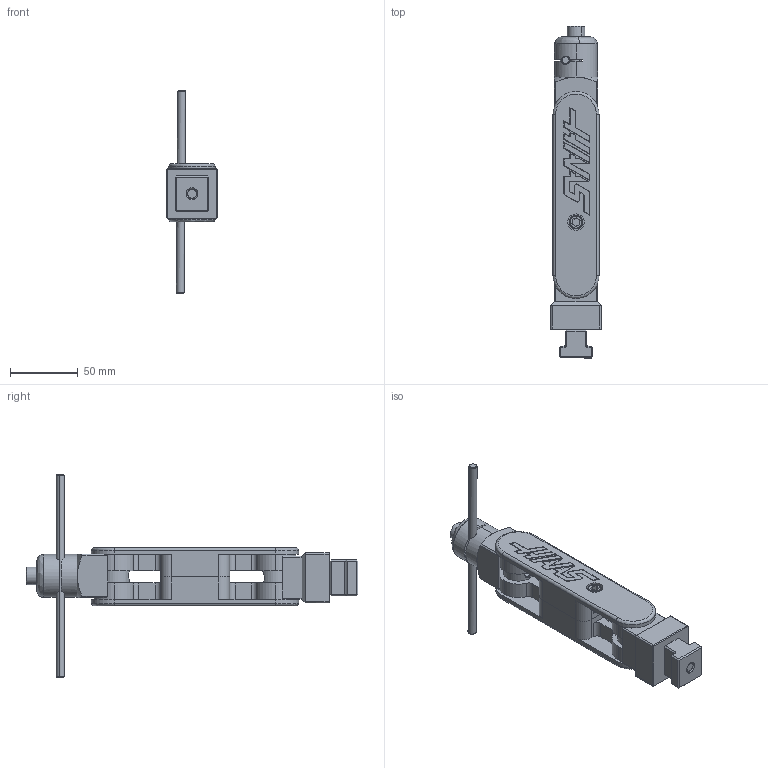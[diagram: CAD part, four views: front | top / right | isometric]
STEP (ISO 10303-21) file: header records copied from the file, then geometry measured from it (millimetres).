
FILE_DESCRIPTION (( 'STEP AP203' ), '1' );
FILE_NAME ('05-0247.STEP', '2023-01-20T16:09:18', ( '' ), ( '' ), 'SwSTEP 2.0', 'SolidWorks 2021', '' );
FILE_SCHEMA (( 'CONFIG_CONTROL_DESIGN' ));
Length unit declared in the file: inch
Products named in the file (12): part5; M6x25 SHCS; Part2; Part3; Part4; Part6; Part8; 05-0247; PART 1; Part7; M8 X 60MM SHCS; Part9
Assembly tree (14 placements, depth 2):
  05-0247
    PART 1  x2
    Part3
    Part2
    Part7
    Part6
    Part9
    Part8
    part5
    Part4
    M6x25 SHCS  x2
    M8 X 60MM SHCS  x2
Bounding box: 37 x 245.1 x 150.03 mm (x, y, z)
Volume: 233671.1 mm3; surface area: 78271.5 mm2
Topology: 12 solids, 22 shells, 2043 faces, 5214 edges, 3426 vertices
Faces by surface type: plane 1534, cylinder 406, cone 69, bspline 34
Entity records: 70435 total; most frequent: CARTESIAN_POINT 43753, ORIENTED_EDGE 5628, DIRECTION 4440, EDGE_CURVE 2825, VERTEX_POINT 1849, LINE 1792, VECTOR 1792, AXIS2_PLACEMENT_3D 1324
